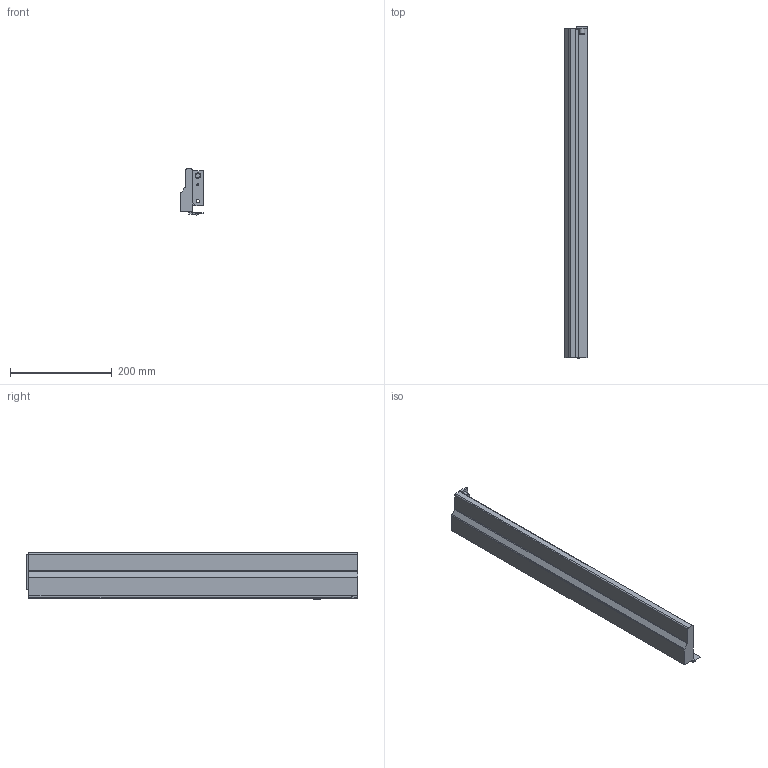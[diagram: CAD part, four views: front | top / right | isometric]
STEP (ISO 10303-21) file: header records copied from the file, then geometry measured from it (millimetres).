
FILE_DESCRIPTION (( 'STEP AP214' ), '1' );
FILE_NAME ('_IMOS_NOVA-Pro_Dekor-H90_CL_NL650_LI.step', '2010-07-06T09:01:02', ( 'grass' ), ( '' ), 'SwSTEP 2.0', 'SolidWorks 2009', '' );
FILE_SCHEMA (( 'AUTOMOTIVE_DESIGN' ));
Length unit declared in the file: millimetre
Products named in the file (1): _IMOS_NOVA-Pro_Dekor-H90_CL_NL650_LI
Bounding box: 44.3 x 652.7 x 90.49 mm (x, y, z)
Volume: 571055.3 mm3; surface area: 223823.3 mm2
Topology: 1 solids, 1 shells, 89 faces, 239 edges, 156 vertices
Faces by surface type: plane 57, cylinder 27, cone 4, bspline 1
Entity records: 2825 total; most frequent: CARTESIAN_POINT 506, ORIENTED_EDGE 478, DIRECTION 474, EDGE_CURVE 239, LINE 178, VECTOR 178, VERTEX_POINT 156, AXIS2_PLACEMENT_3D 148
